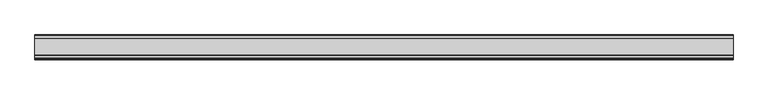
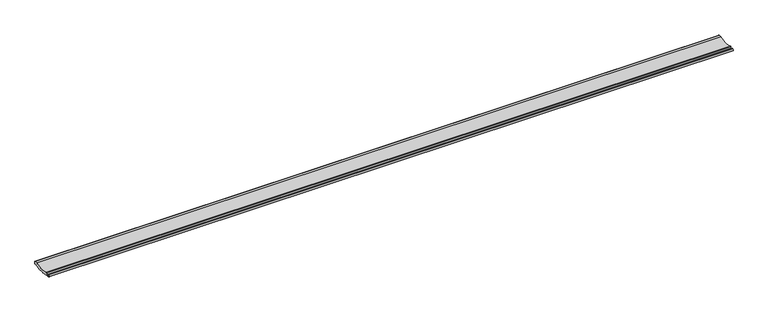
"""IFC4 building model written with IfcOpenShell, lengths in millimetres: proxy geometry, Weiku - Montante -  aleta persiana 02.2.01.305 : Weiku - Montante -  aleta persiana 02.2.01.305."""

import ifcopenshell
import ifcopenshell.guid

model = None  # the IFC model being written
_history = None  # IfcOwnerHistory: only IFC2X3 demands one
_inside = {}  # id of a spatial element -> (the spatial element, [elements in it])
_under = {}  # id of a project, library or spatial element -> (it, [spatial elements below it])
_declared = {}  # id of a project -> (the project, [libraries it declares])
_typed = {}  # id of a type object -> (the type object, [elements of that type])
_made_of = {}  # id of a material, layer set ... -> (it, [elements and type objects made of it])


def new_model(schema):
    """Start an empty IFC model of exactly this schema.

    Asked for "IFC4X3", IfcOpenShell would pick the latest addendum, in which some entities
    have other attributes; the version numbers below select the first issue.
    IFC2X3 requires an IfcOwnerHistory on every rooted entity: one is made here for all.
    """
    global model, _history
    if schema == "IFC4X3":
        model = ifcopenshell.file(schema_version=(4, 3, 0, 0))
    else:
        model = ifcopenshell.file(schema=schema)
    _inside.clear()
    _under.clear()
    _declared.clear()
    _typed.clear()
    _made_of.clear()
    _history = None
    if model.schema == "IFC2X3":
        org = make("IfcOrganization", Name="unknown")
        user = make(
            "IfcPersonAndOrganization",
            ThePerson=make("IfcPerson", FamilyName="unknown"),
            TheOrganization=org,
        )
        app = make(
            "IfcApplication",
            ApplicationDeveloper=org,
            Version="unknown",
            ApplicationFullName="unknown",
            ApplicationIdentifier="unknown",
        )
        _history = make(
            "IfcOwnerHistory",
            OwningUser=user,
            OwningApplication=app,
            ChangeAction="ADDED",
            CreationDate=0,
        )
    return model


def make(cls, **values):
    """One entity of the class cls with the attributes given. An attribute that is None is left unset."""
    return model.create_entity(
        cls, **{name: value for name, value in values.items() if value is not None}
    )


def rooted(cls, **values):
    """An entity with a GlobalId (a new one), such as an element, a storey or a relation."""
    return make(cls, GlobalId=ifcopenshell.guid.new(), OwnerHistory=_history, **values)


def si_unit(unit_type, name, prefix=None):
    """IfcSIUnit, for example si_unit("LENGTHUNIT", "METRE", prefix="MILLI")."""
    return make("IfcSIUnit", UnitType=unit_type, Prefix=prefix, Name=name)


def assignment(units):
    """IfcUnitAssignment: the units of a project."""
    return None if units is None else make("IfcUnitAssignment", Units=units)


def point(xyz):
    """IfcCartesianPoint."""
    return None if xyz is None else make("IfcCartesianPoint", Coordinates=xyz)


def direction(xyz):
    """IfcDirection."""
    return None if xyz is None else make("IfcDirection", DirectionRatios=xyz)


def frame(location, z_axis=None, x_axis=None):
    """IfcAxis2Placement3D, a coordinate frame: its origin and axes. An axis left out is left unset."""
    return make(
        "IfcAxis2Placement3D",
        Location=point(location),
        Axis=direction(z_axis),
        RefDirection=direction(x_axis),
    )


def frame_2d(location, x_axis=None):
    """IfcAxis2Placement2D, a coordinate frame in the plane: its origin and x axis."""
    return make(
        "IfcAxis2Placement2D", Location=point(location), RefDirection=direction(x_axis)
    )


def origin():
    """The frame at (0, 0, 0) with its axes left unset."""
    return frame((0.0, 0.0, 0.0))


def place(relative_to, where):
    """IfcLocalPlacement: puts the frame where relative to a parent placement (None: the world)."""
    return make(
        "IfcLocalPlacement", PlacementRelTo=relative_to, RelativePlacement=where
    )


def context(
    kind, dimensions, precision=None, world=None, true_north=None, identifier=None
):
    """IfcGeometricRepresentationContext, for example the 3D "Model" context."""
    return make(
        "IfcGeometricRepresentationContext",
        ContextIdentifier=identifier,
        ContextType=kind,
        CoordinateSpaceDimension=dimensions,
        Precision=precision,
        WorldCoordinateSystem=world,
        TrueNorth=true_north,
    )


def project(units=None, contexts=None):
    """IfcProject with its units and contexts."""
    return rooted(
        "IfcProject",
        Name="project",
        RepresentationContexts=contexts,
        UnitsInContext=assignment(units),
    )


def spatial(cls, under=None, at=None, **own):
    """A site, building, storey or space (cls), placed at a placement, below another one or the project."""
    s = rooted(cls, ObjectPlacement=at, **own)
    if under is not None:
        _under.setdefault(under.id(), (under, []))[1].append(s)
    return s


def polyline(points):
    """IfcPolyline through the points."""
    return make("IfcPolyline", Points=[point(p) for p in points])


def circle_curve(where, radius):
    """IfcCircle in the frame where."""
    return make("IfcCircle", Position=where, Radius=radius)


def trimmed(basis, trim1, trim2, sense, master):
    """IfcTrimmedCurve: the piece of a basis curve between two trims."""
    return make(
        "IfcTrimmedCurve",
        BasisCurve=basis,
        Trim1=trim1,
        Trim2=trim2,
        SenseAgreement=sense,
        MasterRepresentation=master,
    )


def segment(curve, same_sense, transition):
    """IfcCompositeCurveSegment."""
    return make(
        "IfcCompositeCurveSegment",
        Transition=transition,
        SameSense=same_sense,
        ParentCurve=curve,
    )


def composite_curve(segments, self_intersect=None):
    """IfcCompositeCurve: segments joined end to end."""
    return make("IfcCompositeCurve", Segments=segments, SelfIntersect=self_intersect)


def outline(outer, holes=None, kind="AREA"):
    """IfcArbitraryClosedProfileDef: a profile drawn as a closed curve; with holes, ...WithVoids."""
    if holes is None:
        return make("IfcArbitraryClosedProfileDef", ProfileType=kind, OuterCurve=outer)
    return make(
        "IfcArbitraryProfileDefWithVoids",
        ProfileType=kind,
        OuterCurve=outer,
        InnerCurves=holes,
    )


def extrude(swept, where, along, depth):
    """IfcExtrudedAreaSolid: the profile swept, set in the frame where, extruded along a direction by depth."""
    return make(
        "IfcExtrudedAreaSolid",
        SweptArea=swept,
        Position=where,
        ExtrudedDirection=direction(along),
        Depth=depth,
    )


def shape(context_of_items, identifier, shape_type, items):
    """IfcShapeRepresentation: the items that make up one representation, for example the "Body"."""
    return make(
        "IfcShapeRepresentation",
        ContextOfItems=context_of_items,
        RepresentationIdentifier=identifier,
        RepresentationType=shape_type,
        Items=items,
    )


def source(mapping_origin, context_of_items, identifier, shape_type, items):
    """IfcRepresentationMap: a shape defined once, which mapped items show again and again."""
    return make(
        "IfcRepresentationMap",
        MappingOrigin=mapping_origin,
        MappedRepresentation=shape(context_of_items, identifier, shape_type, items),
    )


def transform(
    local_origin,
    x_axis=None,
    y_axis=None,
    z_axis=None,
    scale=None,
    scale2=None,
    scale3=None,
    uniform=True,
):
    """IfcCartesianTransformationOperator3D, or its non-uniform kind. x_axis, y_axis, z_axis: its Axis1, 2, 3."""
    if uniform:
        return make(
            "IfcCartesianTransformationOperator3D",
            Axis1=direction(x_axis),
            Axis2=direction(y_axis),
            LocalOrigin=point(local_origin),
            Scale=scale,
            Axis3=direction(z_axis),
        )
    return make(
        "IfcCartesianTransformationOperator3DnonUniform",
        Axis1=direction(x_axis),
        Axis2=direction(y_axis),
        LocalOrigin=point(local_origin),
        Scale=scale,
        Axis3=direction(z_axis),
        Scale2=scale2,
        Scale3=scale3,
    )


def mapped(mapping_source, mapping_target):
    """IfcMappedItem: shows the shape of a source again, moved by a transform."""
    return make(
        "IfcMappedItem", MappingSource=mapping_source, MappingTarget=mapping_target
    )


def made_of(thing, what):
    """Note that an element or type object is made of a material, layer set ...; save() writes the relation."""
    if what is not None:
        _made_of.setdefault(what.id(), (what, []))[1].append(thing)
    return thing


def element(
    cls,
    number,
    at=None,
    inside=None,
    cuts=None,
    type_object=None,
    material=None,
    context=None,
    identifier="Body",
    shape_type=None,
    held_by="IfcProductDefinitionShape",
    body=None,
    shapes=None,
    **own,
):
    """One element of the class cls, such as IfcWall. Its Tag is "e" and its number.

    at: its placement. inside: the storey or other place that contains it. cuts: it is an
    opening in that element (IfcRelVoidsElement). A single representation is given by context,
    identifier, shape_type and body (its items); several are given by shapes. held_by: the class
    of the entity that holds the representations. save() writes the other relations.
    """
    e = rooted(cls, Tag="e%d" % number, ObjectPlacement=at, **own)
    if body is not None:
        shapes = [shape(context, identifier, shape_type, body)]
    if shapes is not None:
        e.Representation = make(held_by, Representations=shapes)
    if inside is not None:
        _inside.setdefault(inside.id(), (inside, []))[1].append(e)
    if cuts is not None:
        rooted(
            "IfcRelVoidsElement", RelatingBuildingElement=cuts, RelatedOpeningElement=e
        )
    if type_object is not None:
        _typed.setdefault(type_object.id(), (type_object, []))[1].append(e)
    return made_of(e, material)


def aggregate(whole, parts):
    """IfcRelAggregates: a whole, such as a stair, and the parts it consists of."""
    return rooted("IfcRelAggregates", RelatingObject=whole, RelatedObjects=parts)


def save(model, path):
    """Write the relations noted so far, then the file.

    IfcRelAggregates (storeys below a building ...), IfcRelContainedInSpatialStructure (elements
    in a storey), IfcRelDefinesByType, IfcRelAssociatesMaterial and IfcRelDeclares: one each for
    every whole, place, type object, material and project.
    """
    for whole, parts in _under.values():
        aggregate(whole, parts)
    for where, things in _inside.values():
        rooted(
            "IfcRelContainedInSpatialStructure",
            RelatedElements=things,
            RelatingStructure=where,
        )
    for kind, things in _typed.values():
        rooted("IfcRelDefinesByType", RelatedObjects=things, RelatingType=kind)
    for what, things in _made_of.values():
        rooted("IfcRelAssociatesMaterial", RelatedObjects=things, RelatingMaterial=what)
    for by, libraries in _declared.values():
        rooted("IfcRelDeclares", RelatingContext=by, RelatedDefinitions=libraries)
    model.write(path)


def generic_models_4a18e52f(model_context):
    return source(origin(), model_context, "Body", "SweptSolid", [
        extrude(outline(composite_curve([segment(trimmed(circle_curve(frame_2d((-24.8563258, 51.3136844)), 49.3696856), [point((-42.3231022, 5.1370932))], [point((-7.0094119, 5.2826784))], True, "CARTESIAN"), True, "CONTINUOUS"), segment(polyline([(-7.0094119, 5.2826784), (-0.6784053, 5.2826784)]), True, "CONTINUOUS"), segment(trimmed(circle_curve(frame_2d((-0.6784053, 4.604273)), 0.6784053), [point((-0.6784053, 5.2826784))], [point((0.0, 4.604273))], False, "CARTESIAN"), True, "CONTINUOUS"), segment(polyline([(0.0, 4.604273), (0.0, -0.101989)]), True, "CONTINUOUS"), segment(trimmed(circle_curve(frame_2d((-0.8, -0.101989)), 0.8), [point((0.0, -0.101989))], [point((-0.5941175, -0.875043))], False, "CARTESIAN"), True, "CONTINUOUS"), segment(trimmed(circle_curve(frame_2d((-21.6253298, 78.0935981)), 81.7212223), [point((-0.5941175, -0.875043))], [point((-13.7866712, -3.2508153))], False, "CARTESIAN"), True, "CONTINUOUS"), segment(trimmed(circle_curve(frame_2d((-14.2816485, -3.8467778)), 0.7747088), [point((-13.7866712, -3.2508153))], [point((-14.8747096, -3.3483278))], True, "CARTESIAN"), True, "CONTINUOUS"), segment(trimmed(circle_curve(frame_2d((-21.6253298, 78.0935981)), 81.7212223), [point((-14.8747096, -3.3483278))], [point((-28.03902, -3.375554))], False, "CARTESIAN"), True, "CONTINUOUS"), segment(trimmed(circle_curve(frame_2d((-28.6558102, -3.9281482)), 0.8281247), [point((-28.03902, -3.375554))], [point((-29.1695632, -3.2786497))], True, "CARTESIAN"), True, "CONTINUOUS"), segment(trimmed(circle_curve(frame_2d((-21.6253298, 78.0935981)), 81.7212223), [point((-29.1695632, -3.2786497))], [point((-43.0, -0.7827712))], False, "CARTESIAN"), True, "CONTINUOUS"), segment(polyline([(-43.0, -0.7827712), (-43.0, 0.0), (-49.865, 0.0)]), True, "CONTINUOUS"), segment(trimmed(circle_curve(frame_2d((-49.865, 2.175)), 2.175), [point((-49.865, 0.0))], [point((-49.865, 4.35))], False, "CARTESIAN"), True, "CONTINUOUS"), segment(polyline([(-49.865, 4.35), (-48.8043398, 4.35), (-48.8043398, 3.05)]), True, "CONTINUOUS"), segment(trimmed(circle_curve(frame_2d((-49.865, 2.175)), 1.375), [point((-48.8043398, 3.05))], [point((-49.865, 0.8))], True, "CARTESIAN"), True, "CONTINUOUS"), segment(polyline([(-49.865, 0.8), (-43.0, 0.8), (-43.0, 4.6694318)]), True, "CONTINUOUS"), segment(trimmed(circle_curve(frame_2d((-42.5, 4.6694318)), 0.5), [point((-43.0, 4.6694318))], [point((-42.3231022, 5.1370932))], False, "CARTESIAN"), True, "CONTINUOUS")], self_intersect=False)), frame((-729.0, 0.0, 0.0), z_axis=(1.0, 0.0, 0.0), x_axis=(0.0, 1.0, 0.0)), (0.0, 0.0, 1.0), 1458.0),
    ])


if __name__ == "__main__":
    model = new_model("IFC4")
    model_context = context("Model", 3, world=origin())
    ifc_project = project(units=[si_unit("LENGTHUNIT", "METRE", prefix="MILLI")], contexts=[model_context])
    site = spatial("IfcSite", under=ifc_project)
    building = spatial("IfcBuilding", under=site)
    placement = place(None, origin())
    generic_models_shape = generic_models_4a18e52f(model_context)
    element("IfcBuildingElementProxy", 1, Name="Weiku - Montante -  aleta persiana 02.2.01.305 : Weiku - Montante -  aleta persiana 02.2.01.305", ObjectType="Weiku - Montante -  aleta persiana 02.2.01.305 : Weiku - Montante -  aleta persiana 02.2.01.305", at=placement, inside=building, context=model_context, shape_type="MappedRepresentation", body=[
        mapped(generic_models_shape, transform((0.0, 0.0, 0.0), x_axis=(1.0, 0.0, 0.0), y_axis=(0.0, 1.0, 0.0), z_axis=(0.0, 0.0, 1.0))),
    ])
    save(model, "model.ifc")
